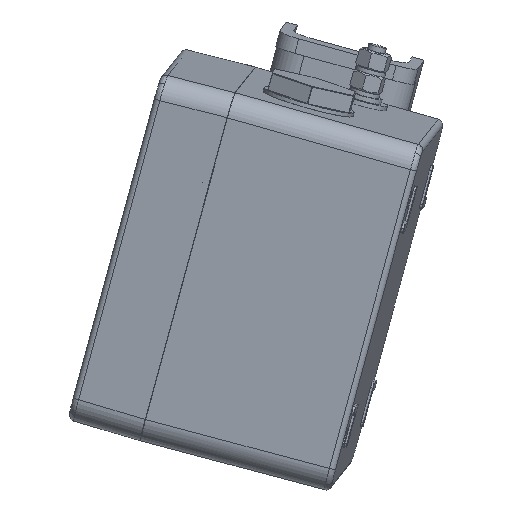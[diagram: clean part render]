
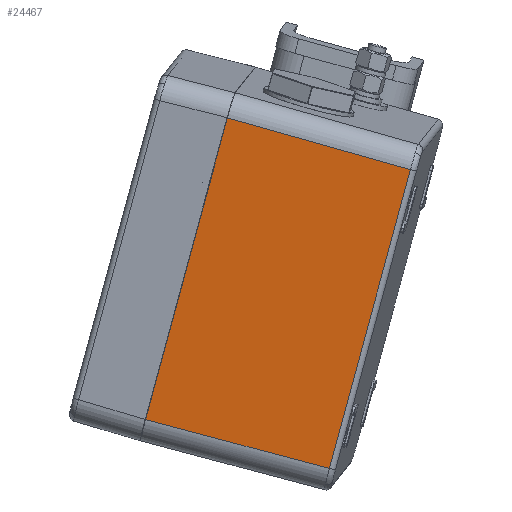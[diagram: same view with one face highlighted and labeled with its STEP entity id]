
A CAD part, left-side view. The second image highlights one B-rep face of the part: STEP entity #24467.
In plain terms, the highlighted planar face has unit normal (-0.995, 0.055, -0.082) as drawn and (-1, -0.008, 0) by its records, which use the part's own axes.
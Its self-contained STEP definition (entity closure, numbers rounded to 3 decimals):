
#771=PLANE('',#26283);
#1508=LINE('',#38173,#3372);
#1555=LINE('',#38888,#3419);
#1556=LINE('',#38889,#3420);
#1557=LINE('',#38890,#3421);
#3372=VECTOR('',#29419,103.969);
#3419=VECTOR('',#29526,63.02);
#3420=VECTOR('',#29527,102.979);
#3421=VECTOR('',#29528,63.02);
#6372=FACE_OUTER_BOUND('',#7953,.T.);
#7953=EDGE_LOOP('',(#17313,#17314,#17315,#17316));
#10968=VERTEX_POINT('',#36960);
#11141=VERTEX_POINT('',#38170);
#11142=VERTEX_POINT('',#38172);
#11184=VERTEX_POINT('',#38887);
#13540=EDGE_CURVE('',#11142,#11141,#1508,.T.);
#13613=EDGE_CURVE('',#11141,#11184,#1555,.T.);
#13614=EDGE_CURVE('',#11184,#10968,#1556,.T.);
#13615=EDGE_CURVE('',#10968,#11142,#1557,.T.);
#17313=ORIENTED_EDGE('',*,*,#13613,.T.);
#17314=ORIENTED_EDGE('',*,*,#13614,.T.);
#17315=ORIENTED_EDGE('',*,*,#13615,.T.);
#17316=ORIENTED_EDGE('',*,*,#13540,.T.);
#24467=ADVANCED_FACE('',(#6372),#771,.T.);
#26283=AXIS2_PLACEMENT_3D('',#38886,#29524,#29525);
#29419=DIRECTION('',(0.,0.,-1.));
#29524=DIRECTION('center_axis',(-1.,-0.008,
0.));
#29525=DIRECTION('ref_axis',(0.008,-1.,0.));
#29526=DIRECTION('',(0.008,-1.,0.008));
#29527=DIRECTION('',(0.,0.,1.));
#29528=DIRECTION('',(-0.008,1.,0.008));
#36960=CARTESIAN_POINT('',(-60.489,-63.016,51.49));
#38170=CARTESIAN_POINT('',(-60.984,0.,-51.985));
#38172=CARTESIAN_POINT('',(-60.984,0.,51.985));
#38173=CARTESIAN_POINT('',(-60.984,0.,-60.));
#38886=CARTESIAN_POINT('Origin',(-61.,2.,-60.));
#38887=CARTESIAN_POINT('',(-60.489,-63.016,-51.49));
#38888=CARTESIAN_POINT('',(-61.,2.063,-52.001));
#38889=CARTESIAN_POINT('',(-60.489,-63.016,51.474));
#38890=CARTESIAN_POINT('',(-60.993,1.12,51.993));
